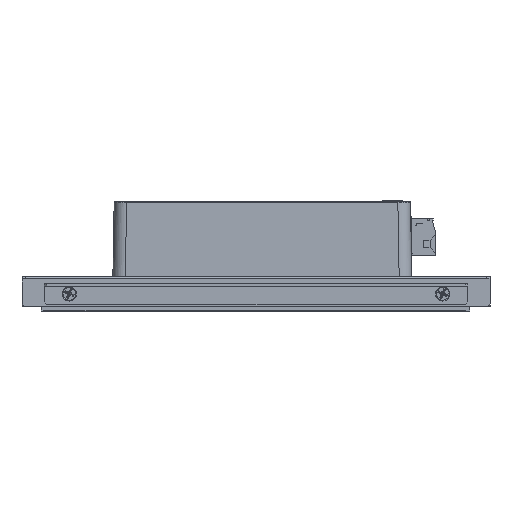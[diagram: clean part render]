
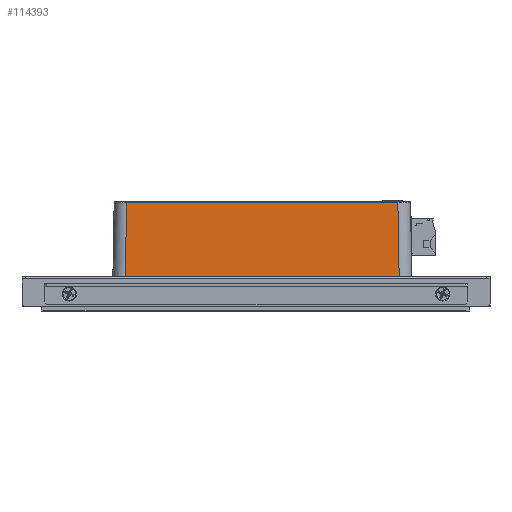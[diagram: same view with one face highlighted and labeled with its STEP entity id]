
A CAD part, left-side view. The second image highlights one B-rep face of the part: STEP entity #114393.
In plain terms, the highlighted planar face has unit normal (-1, 0, 0.018).
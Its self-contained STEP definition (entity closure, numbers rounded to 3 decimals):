
#3593 = EDGE_CURVE ( 'NONE', #88718, #64340, #79590, .T. ) ;
#8221 = DIRECTION ( 'NONE',  ( 0., 1., 0. ) ) ;
#9490 = EDGE_CURVE ( 'NONE', #88718, #77360, #13121, .T. ) ;
#9960 = EDGE_CURVE ( 'NONE', #119415, #77360, #35354, .T. ) ;
#13121 = LINE ( 'NONE', #31355, #50872 ) ;
#15916 = EDGE_CURVE ( 'NONE', #64340, #119415, #51637, .T. ) ;
#16260 = VECTOR ( 'NONE', #8221, 1000. ) ;
#20831 = ORIENTED_EDGE ( 'NONE', *, *, #15916, .T. ) ;
#23912 = ORIENTED_EDGE ( 'NONE', *, *, #9960, .T. ) ;
#25539 = DIRECTION ( 'NONE',  ( -0.017, 0.017, -1. ) ) ;
#27980 = ORIENTED_EDGE ( 'NONE', *, *, #3593, .T. ) ;
#31355 = CARTESIAN_POINT ( 'NONE',  ( -115., -60., -30. ) ) ;
#35354 = LINE ( 'NONE', #99724, #104800 ) ;
#37231 = PLANE ( 'NONE',  #56851 ) ;
#37322 = CARTESIAN_POINT ( 'NONE',  ( -114.48, -54.481, -0.197 ) ) ;
#46338 = CARTESIAN_POINT ( 'NONE',  ( -115., -60., -30. ) ) ;
#47013 = DIRECTION ( 'NONE',  ( -1., 0., 0.017 ) ) ;
#50872 = VECTOR ( 'NONE', #138401, 1000. ) ;
#51637 = LINE ( 'NONE', #94322, #16260 ) ;
#56851 = AXIS2_PLACEMENT_3D ( 'NONE', #46338, #47013, #69421 ) ;
#57170 = DIRECTION ( 'NONE',  ( 0.017, 0.017, 1. ) ) ;
#64340 = VERTEX_POINT ( 'NONE', #37322 ) ;
#69421 = DIRECTION ( 'NONE',  ( -0.017, 0., -1. ) ) ;
#77360 = VERTEX_POINT ( 'NONE', #87912 ) ;
#79590 = LINE ( 'NONE', #122208, #136169 ) ;
#87912 = CARTESIAN_POINT ( 'NONE',  ( -115., 55.001, -30. ) ) ;
#88718 = VERTEX_POINT ( 'NONE', #135594 ) ;
#94322 = CARTESIAN_POINT ( 'NONE',  ( -114.48, -60., -0.197 ) ) ;
#98496 = ORIENTED_EDGE ( 'NONE', *, *, #9490, .F. ) ;
#99724 = CARTESIAN_POINT ( 'NONE',  ( -114.965, 54.966, -27.994 ) ) ;
#104800 = VECTOR ( 'NONE', #25539, 1000. ) ;
#109987 = FACE_OUTER_BOUND ( 'NONE', #114686, .T. ) ;
#114393 = ADVANCED_FACE ( 'NONE', ( #109987 ), #37231, .T. ) ;
#114686 = EDGE_LOOP ( 'NONE', ( #20831, #23912, #98496, #27980 ) ) ;
#119415 = VERTEX_POINT ( 'NONE', #121146 ) ;
#121146 = CARTESIAN_POINT ( 'NONE',  ( -114.48, 54.481, -0.197 ) ) ;
#122208 = CARTESIAN_POINT ( 'NONE',  ( -115.002, -55.002, -30.087 ) ) ;
#135594 = CARTESIAN_POINT ( 'NONE',  ( -115., -55.001, -30. ) ) ;
#136169 = VECTOR ( 'NONE', #57170, 1000. ) ;
#138401 = DIRECTION ( 'NONE',  ( 0., 1., 0. ) ) ;
